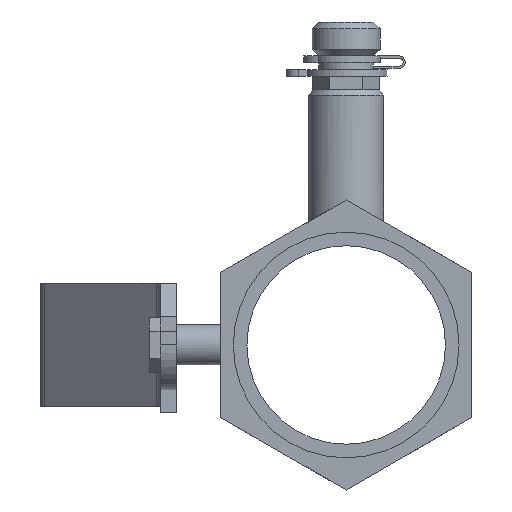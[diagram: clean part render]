
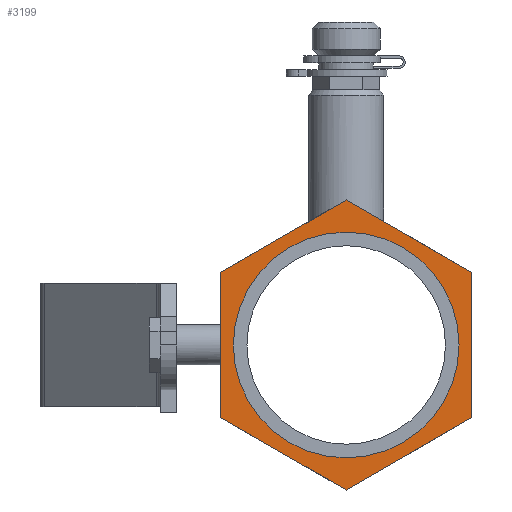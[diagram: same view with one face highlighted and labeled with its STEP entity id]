
A CAD part, left-side view. The second image highlights one B-rep face of the part: STEP entity #3199.
In plain terms, the highlighted planar face has unit normal (-1, 0, 0).
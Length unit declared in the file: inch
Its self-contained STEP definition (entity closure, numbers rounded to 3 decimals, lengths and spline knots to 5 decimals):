
#81=FACE_BOUND('',#525,.T.);
#181=PLANE('',#3497);
#339=FACE_OUTER_BOUND('',#524,.T.);
#524=EDGE_LOOP('',(#2724,#2725,#2726,#2727,#2728,#2729));
#525=EDGE_LOOP('',(#2730,#2731));
#664=CIRCLE('',#3498,0.83);
#665=CIRCLE('',#3499,0.83);
#876=LINE('',#5175,#1180);
#881=LINE('',#5185,#1185);
#893=LINE('',#5221,#1197);
#896=LINE('',#5226,#1200);
#898=LINE('',#5229,#1202);
#899=LINE('',#5231,#1203);
#1180=VECTOR('',#4176,0.3937);
#1185=VECTOR('',#4183,0.3937);
#1197=VECTOR('',#4221,0.3937);
#1200=VECTOR('',#4226,0.3937);
#1202=VECTOR('',#4230,0.3937);
#1203=VECTOR('',#4233,0.3937);
#1481=VERTEX_POINT('',#5173);
#1482=VERTEX_POINT('',#5174);
#1486=VERTEX_POINT('',#5184);
#1496=VERTEX_POINT('',#5219);
#1497=VERTEX_POINT('',#5220);
#1498=VERTEX_POINT('',#5225);
#1517=VERTEX_POINT('',#5296);
#1518=VERTEX_POINT('',#5297);
#1868=EDGE_CURVE('',#1481,#1482,#876,.T.);
#1873=EDGE_CURVE('',#1486,#1481,#881,.T.);
#1891=EDGE_CURVE('',#1496,#1497,#893,.T.);
#1894=EDGE_CURVE('',#1498,#1496,#896,.T.);
#1896=EDGE_CURVE('',#1482,#1498,#898,.T.);
#1897=EDGE_CURVE('',#1497,#1486,#899,.T.);
#1929=EDGE_CURVE('',#1517,#1518,#664,.T.);
#1930=EDGE_CURVE('',#1518,#1517,#665,.T.);
#2724=ORIENTED_EDGE('',*,*,#1896,.T.);
#2725=ORIENTED_EDGE('',*,*,#1894,.T.);
#2726=ORIENTED_EDGE('',*,*,#1891,.T.);
#2727=ORIENTED_EDGE('',*,*,#1897,.T.);
#2728=ORIENTED_EDGE('',*,*,#1873,.T.);
#2729=ORIENTED_EDGE('',*,*,#1868,.T.);
#2730=ORIENTED_EDGE('',*,*,#1929,.F.);
#2731=ORIENTED_EDGE('',*,*,#1930,.F.);
#3199=ADVANCED_FACE('',(#339,#81),#181,.T.);
#3497=AXIS2_PLACEMENT_3D('',#5295,#4299,#4300);
#3498=AXIS2_PLACEMENT_3D('',#5298,#4301,#4302);
#3499=AXIS2_PLACEMENT_3D('',#5299,#4303,#4304);
#4176=DIRECTION('',(0.,0.,1.));
#4183=DIRECTION('',(0.,-0.866,0.5));
#4221=DIRECTION('',(0.,0.,-1.));
#4226=DIRECTION('',(0.,0.866,-0.5));
#4230=DIRECTION('',(0.,0.866,0.5));
#4233=DIRECTION('',(0.,-0.866,-0.5));
#4299=DIRECTION('center_axis',(-1.,0.,0.));
#4300=DIRECTION('ref_axis',(0.,0.,1.));
#4301=DIRECTION('center_axis',(-1.,0.,0.));
#4302=DIRECTION('ref_axis',(0.,0.,1.));
#4303=DIRECTION('center_axis',(-1.,0.,0.));
#4304=DIRECTION('ref_axis',(0.,0.,1.));
#5173=CARTESIAN_POINT('',(-1.69,-0.9235,-0.53318));
#5174=CARTESIAN_POINT('',(-1.69,-0.9235,0.53318));
#5175=CARTESIAN_POINT('',(-1.69,-0.9235,-0.53318));
#5184=CARTESIAN_POINT('',(-1.69,0.,-1.06637));
#5185=CARTESIAN_POINT('',(-1.69,0.,-1.06637));
#5219=CARTESIAN_POINT('',(-1.69,0.9235,0.53318));
#5220=CARTESIAN_POINT('',(-1.69,0.9235,-0.53318));
#5221=CARTESIAN_POINT('',(-1.69,0.9235,0.53318));
#5225=CARTESIAN_POINT('',(-1.69,0.,1.06637));
#5226=CARTESIAN_POINT('',(-1.69,0.,1.06637));
#5229=CARTESIAN_POINT('',(-1.69,-0.9235,0.53318));
#5231=CARTESIAN_POINT('',(-1.69,0.9235,-0.53318));
#5295=CARTESIAN_POINT('Origin',(-1.69,0.83,0.));
#5296=CARTESIAN_POINT('',(-1.69,0.,-0.83));
#5297=CARTESIAN_POINT('',(-1.69,-0.83,0.));
#5298=CARTESIAN_POINT('Origin',(-1.69,0.,0.));
#5299=CARTESIAN_POINT('Origin',(-1.69,0.,0.));
